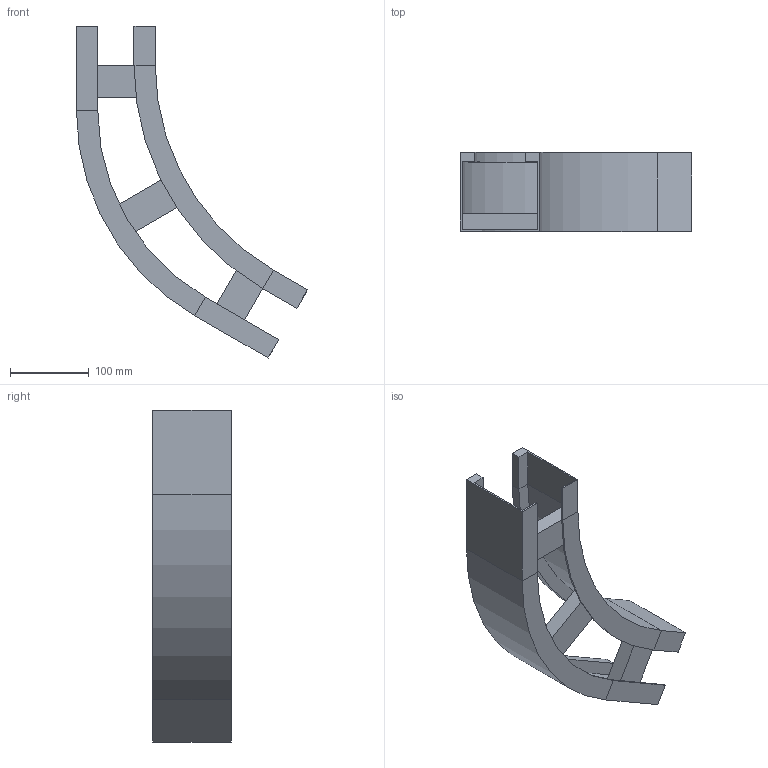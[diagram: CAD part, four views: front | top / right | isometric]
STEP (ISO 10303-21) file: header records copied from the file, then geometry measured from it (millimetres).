
FILE_DESCRIPTION (( 'STEP AP214' ), '1' );
FILE_NAME ('B2_13B3D100.step', '2025-02-21T15:18:08', ( '' ), ( '' ), 'SwSTEP 2.0', 'SolidWorks 2023', '' );
FILE_SCHEMA (( 'AUTOMOTIVE_DESIGN' ));
Length unit declared in the file: millimetre
Products named in the file (5): TRAVERSINO_L111; B2_LONGH.ESTERNO 60°_H100_R300+100; TRAVERSINO_100; B2_13B3D100; B2_LONGH.INTERNO 60°_H100_R300
Assembly tree (5 placements, depth 2):
  B2_13B3D100
    B2_LONGH.INTERNO 60°_H100_R300
    B2_LONGH.ESTERNO 60°_H100_R300+100
    TRAVERSINO_100  x2
    TRAVERSINO_L111
Bounding box: 293.3 x 100 x 421.41 mm (x, y, z)
Volume: 662584.6 mm3; surface area: 313214.5 mm2
Topology: 5 solids, 5 shells, 70 faces, 148 edges, 88 vertices
Faces by surface type: plane 62, cylinder 8
Entity records: 1822 total; most frequent: DIRECTION 296, CARTESIAN_POINT 288, ORIENTED_EDGE 272, EDGE_CURVE 136, VECTOR 120, LINE 120, AXIS2_PLACEMENT_3D 88, VERTEX_POINT 80
